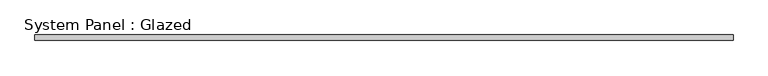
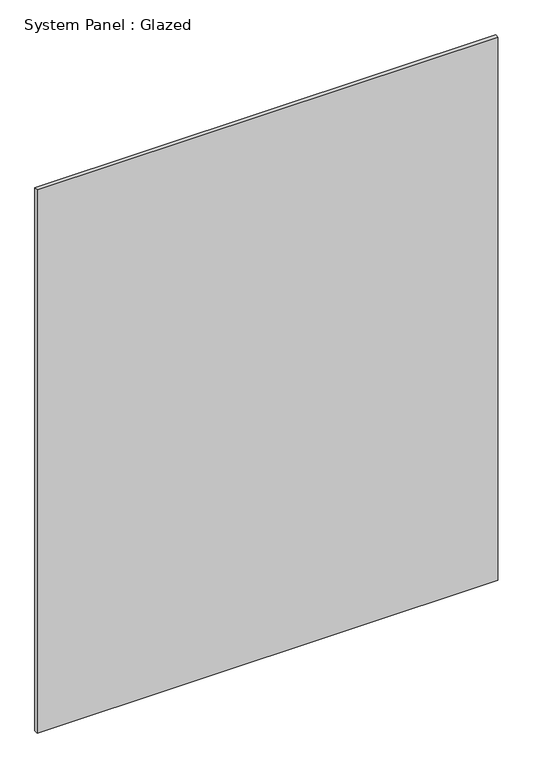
"""IFC4 building model written with IfcOpenShell, lengths in millimetres: plate geometry, System Panel : Glazed."""

from ifc_helpers import new_model, si_unit, origin, origin_with_axes, place, context, project, spatial, polyline, outline, extrude, source, transform, mapped, element, save


def system_panel_glazed_2966d5fb(model_context):
    return source(origin(), model_context, "Body", "SweptSolid", [
        extrude(outline(polyline([(750.0, 4.0), (-750.0, 4.0), (-750.0, 16.0), (750.0, 16.0), (750.0, 4.0)])), origin_with_axes(), (0.0, 0.0, 1.0), 1870.0),
    ])


if __name__ == "__main__":
    model = new_model("IFC4")
    model_context = context("Model", 3, world=origin())
    ifc_project = project(units=[si_unit("LENGTHUNIT", "METRE", prefix="MILLI")], contexts=[model_context])
    site = spatial("IfcSite", under=ifc_project)
    building = spatial("IfcBuilding", under=site)
    placement = place(None, origin())
    system_panel_glazed_shape = system_panel_glazed_2966d5fb(model_context)
    element("IfcPlate", 1, ObjectType="System Panel : Glazed", at=placement, inside=building, context=model_context, shape_type="MappedRepresentation", body=[
        mapped(system_panel_glazed_shape, transform((0.0, 0.0, 0.0), x_axis=(1.0, 0.0, 0.0), y_axis=(0.0, 1.0, 0.0), z_axis=(0.0, 0.0, 1.0))),
    ])
    save(model, "model.ifc")
